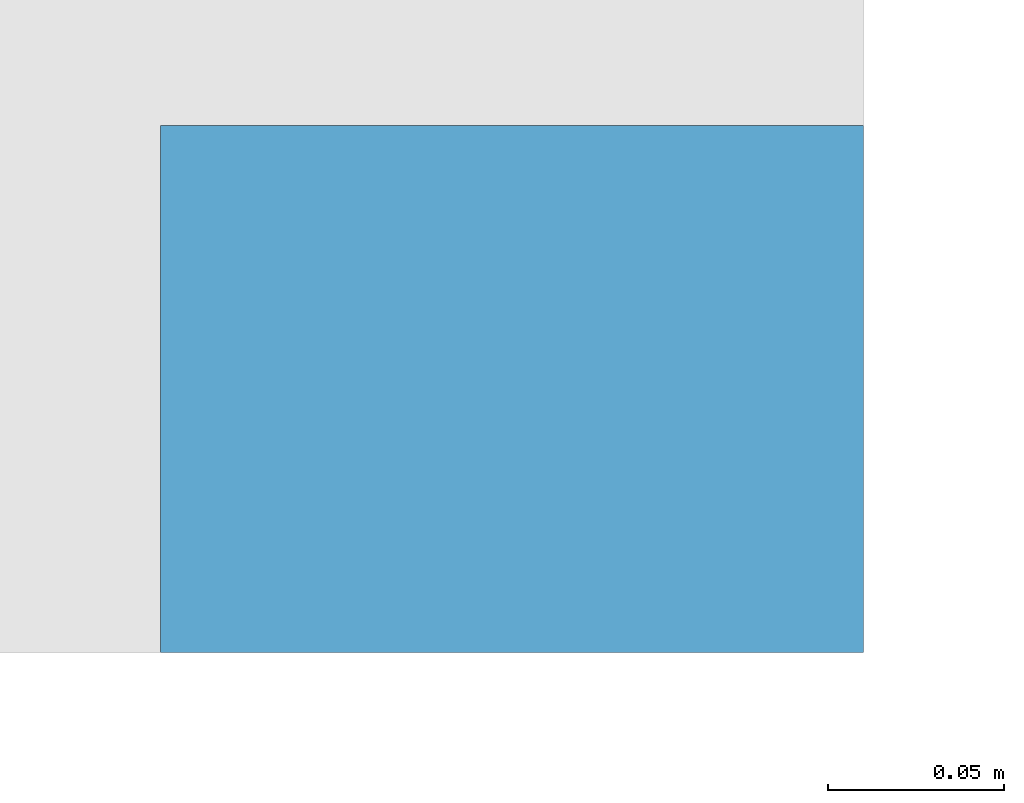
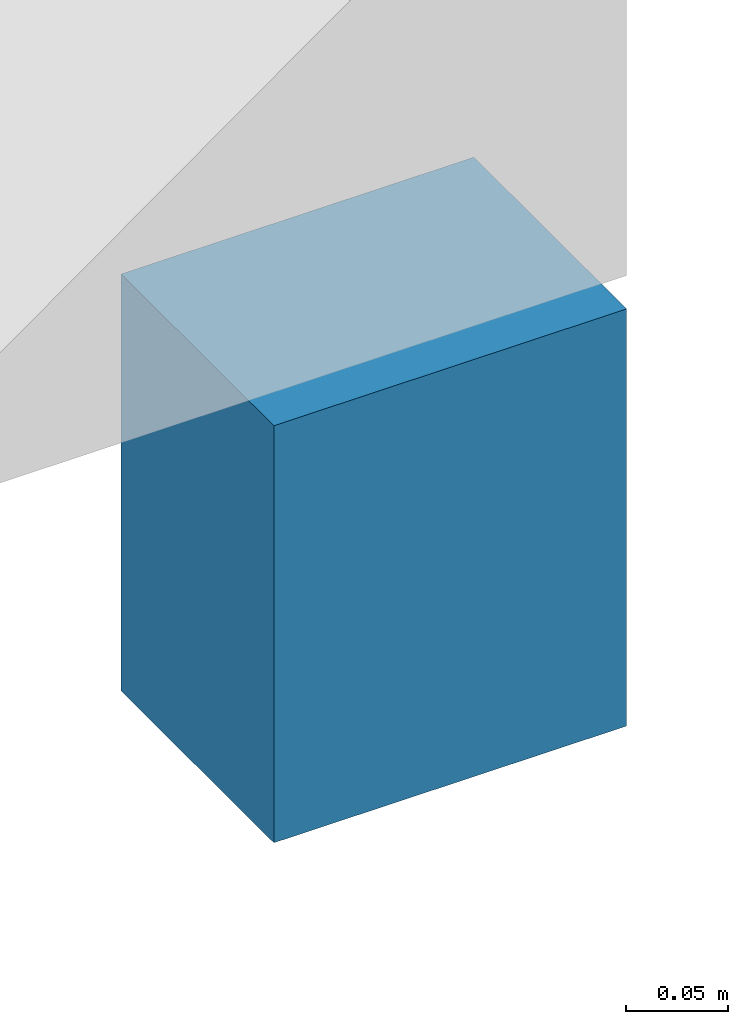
# One storey, part 5 of 8: 1 wall.
"""IFC2X3 building model written with IfcOpenShell, lengths in millimetres."""

from ifc_helpers import new_model, entity, si_unit, converted_unit, derived_unit, direction, frame, frame_2d, origin, place, context, subcontext, project, spatial, rectangle, extrude, material, type_object, element, save


model = new_model("IFC2X3")

# Units and contexts
model_context = context("Model", 3, precision=0.01, world=origin(), true_north=direction((6.12303176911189e-17, 1.0)))
body_context = subcontext(model_context, "Body", "Model", "MODEL_VIEW")
ifc_project = project(units=[si_unit("LENGTHUNIT", "METRE", prefix="MILLI"), si_unit("AREAUNIT", "SQUARE_METRE"), si_unit("VOLUMEUNIT", "CUBIC_METRE"), converted_unit("PLANEANGLEUNIT", "DEGREE", entity("IfcRatioMeasure", 0.0174532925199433), si_unit("PLANEANGLEUNIT", "RADIAN"), dimensions=[0, 0, 0, 0, 0, 0, 0]), si_unit("MASSUNIT", "GRAM", prefix="KILO"), derived_unit("MASSDENSITYUNIT", [(si_unit("MASSUNIT", "GRAM", prefix="KILO"), 1), (si_unit("LENGTHUNIT", "METRE"), -3)]), si_unit("TIMEUNIT", "SECOND"), si_unit("FREQUENCYUNIT", "HERTZ"), si_unit("THERMODYNAMICTEMPERATUREUNIT", "DEGREE_CELSIUS"), derived_unit("THERMALTRANSMITTANCEUNIT", [(si_unit("MASSUNIT", "GRAM", prefix="KILO"), 1), (si_unit("THERMODYNAMICTEMPERATUREUNIT", "KELVIN"), -1), (si_unit("TIMEUNIT", "SECOND"), -3)]), derived_unit("VOLUMETRICFLOWRATEUNIT", [(si_unit("LENGTHUNIT", "METRE"), 3), (si_unit("TIMEUNIT", "SECOND"), -1)]), si_unit("ELECTRICCURRENTUNIT", "AMPERE"), si_unit("ELECTRICVOLTAGEUNIT", "VOLT"), si_unit("POWERUNIT", "WATT"), si_unit("FORCEUNIT", "NEWTON", prefix="KILO"), si_unit("ILLUMINANCEUNIT", "LUX"), si_unit("LUMINOUSFLUXUNIT", "LUMEN"), si_unit("LUMINOUSINTENSITYUNIT", "CANDELA"), derived_unit("USERDEFINED", [(si_unit("MASSUNIT", "GRAM", prefix="KILO"), -1), (si_unit("LENGTHUNIT", "METRE"), -2), (si_unit("TIMEUNIT", "SECOND"), 3), (si_unit("LUMINOUSFLUXUNIT", "LUMEN"), 1)]), derived_unit("LINEARVELOCITYUNIT", [(si_unit("LENGTHUNIT", "METRE"), 1), (si_unit("TIMEUNIT", "SECOND"), -1)]), si_unit("PRESSUREUNIT", "PASCAL"), derived_unit("USERDEFINED", [(si_unit("LENGTHUNIT", "METRE"), -2), (si_unit("MASSUNIT", "GRAM", prefix="KILO"), 1), (si_unit("TIMEUNIT", "SECOND"), -2)])], contexts=[model_context])

# Site, building, storey
site_placement = place(None, origin())
site = spatial("IfcSite", under=ifc_project, at=site_placement, Name="Default", CompositionType="ELEMENT")
building_placement = place(site_placement, origin())
building = spatial("IfcBuilding", under=site, at=building_placement, Name="niet gebruiken", CompositionType="ELEMENT")
storey_placement = place(building_placement, frame((0.0, 0.0, 3810.0)))
storey = spatial("IfcBuildingStorey", under=building, at=storey_placement, Name="01a eerste tussenverdieping", CompositionType="ELEMENT", Elevation=3810.0)

# Wall
ifc_material = material(Name="NLRS_f2_beton prefab")
wall_type = type_object("IfcWallType", Name="NLRS_21.21_SF_WPB_oplegnok prefabbeton_gen:200x250", PredefinedType="NOTDEFINED", material=ifc_material)
wall_placement = place(storey_placement, frame((114750.000813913, 24701.0, -800.0), z_axis=(0.0, 0.0, 1.0), x_axis=(0.0, 1.0, 0.0)))
element("IfcWall", 1, at=wall_placement, inside=storey, type_object=wall_type, material=ifc_material, Name="NLRS_21.21_SF_WPB_oplegnok prefabbeton_gen:200x250", ObjectType="NLRS_21.21_SF_WPB_oplegnok prefabbeton_gen:200x250", context=body_context, shape_type="SweptSolid", body=[
    extrude(rectangle(XDim=150.000000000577, YDim=199.999999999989, at=frame_2d((0.0, -8.66862137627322e-12), x_axis=(1.0, 0.0))), frame((75.0, -100.0, 0.0)), (0.0, 0.0, 1.0), 250.000000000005),
])

save(model, "model.ifc")
